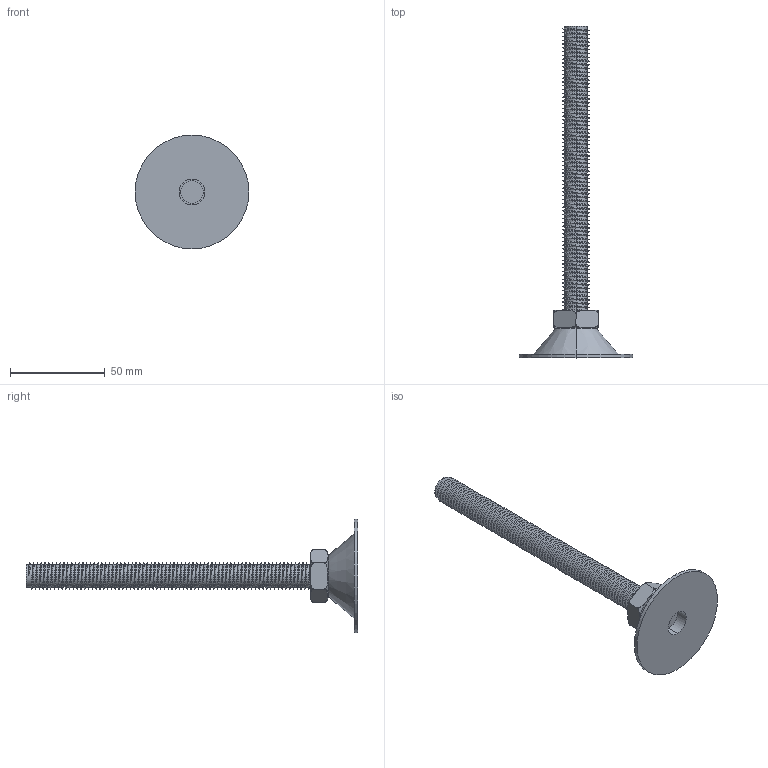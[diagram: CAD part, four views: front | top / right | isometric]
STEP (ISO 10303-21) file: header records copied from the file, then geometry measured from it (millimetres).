
FILE_DESCRIPTION (( 'STEP AP203' ), '1' );
FILE_NAME ('A6016150.STEP', '2018-01-12T06:04:07', ( '' ), ( '' ), 'SwSTEP 2.0', 'SolidWorks 2014', '' );
FILE_SCHEMA (( 'CONFIG_CONTROL_DESIGN' ));
Length unit declared in the file: millimetre
Products named in the file (3): A6016150; 底座A60; 螺桿M16XL150XP2
Assembly tree (2 placements, depth 2):
  A6016150
    底座A60
    螺桿M16XL150XP2
Bounding box: 60 x 175 x 60 mm (x, y, z)
Volume: 39670.1 mm3; surface area: 19059 mm2
Topology: 2 solids, 2 shells, 180 faces, 513 edges, 340 vertices
Faces by surface type: cylinder 156, plane 14, torus 6, cone 2, bspline 2
Entity records: 12466 total; most frequent: CARTESIAN_POINT 8373, ORIENTED_EDGE 1026, DIRECTION 596, EDGE_CURVE 513, VERTEX_POINT 340, AXIS2_PLACEMENT_3D 215, EDGE_LOOP 185, FACE_OUTER_BOUND 180
